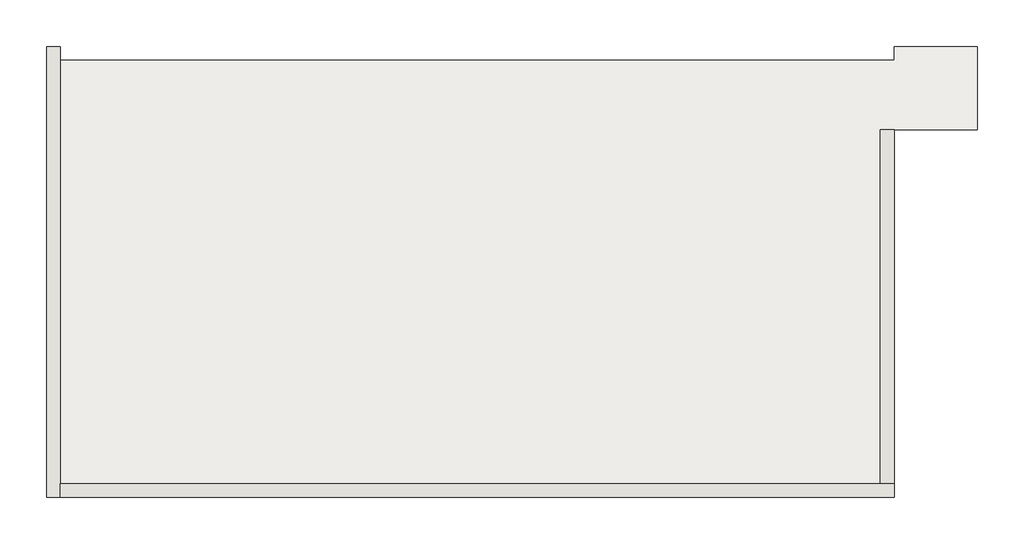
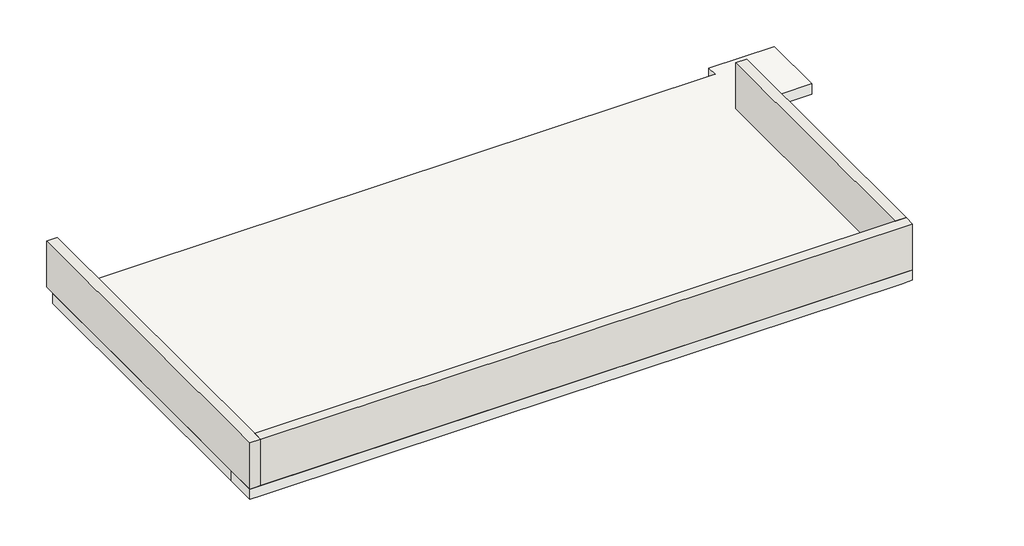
# One storey: 3 walls, 1 slab.
"""IFC4 building model written with IfcOpenShell, lengths in millimetres."""

from ifc_helpers import new_model, si_unit, frame, origin, place, context, project, spatial, polyline, outline, extrude, faceted_brep, element, save

model = new_model("IFC4")

# Units and contexts
model_context = context("Model", 3, world=origin())
ifc_project = project(units=[si_unit("LENGTHUNIT", "METRE", prefix="MILLI")], contexts=[model_context])

# Site, building, storey
site = spatial("IfcSite", under=ifc_project)
building = spatial("IfcBuilding", under=site)
storey = spatial("IfcBuildingStorey", under=building, Name="2 - RdC", Elevation=3000.0)

# Slab
placement = place(None, origin())
element("IfcSlab", 1, ObjectType="Dalle en béton - 200 mm", at=placement, inside=storey, context=model_context, shape_type="Brep", body=[
    faceted_brep([(-5173.7146801, -771.6841102, 2800.0), (-5173.7146801, -171.6841102, 2800.0), (-5173.7146801, 5528.3158898, 2800.0), (-4973.7146801, 5528.3158898, 2800.0), (836.2853199, 5528.3158898, 2800.0), (1036.2853199, 5528.3158898, 2800.0), (7046.2853199, 5528.3158898, 2800.0), (7046.2853199, 5728.3158898, 2800.0), (8246.2853199, 5728.3158898, 2800.0), (8246.2853199, 4528.3158898, 2800.0), (7046.2853199, 4528.3158898, 2800.0), (7046.2853199, -171.6841102, 2800.0), (7046.2853199, -771.6841102, 2800.0), (6846.2853199, -771.6841102, 2800.0), (1036.2853199, -771.6841102, 2800.0), (836.2853199, -771.6841102, 2800.0), (-4973.7146801, -771.6841102, 2800.0), (-5173.7146801, -771.6841102, 3000.0), (7046.2853199, -771.6841102, 3000.0), (7046.2853199, 4528.3158898, 3000.0), (8246.2853199, 4528.3158898, 3000.0), (8246.2853199, 5728.3158898, 3000.0), (7046.2853199, 5728.3158898, 3000.0), (7046.2853199, 5528.3158898, 3000.0), (-5173.7146801, 5528.3158898, 3000.0), (-5173.7146801, -171.6841102, 3000.0)], [[[0, 1, 2, 3, 4, 5, 6, 7, 8, 9, 10, 11, 12, 13, 14, 15, 16]], [[17, 18, 19, 20, 21, 22, 23, 24, 25]], [[1, 0, 17, 25]], [[2, 1, 25, 24]], [[6, 5, 4, 3, 2, 24, 23]], [[12, 11, 10, 19, 18]], [[0, 16, 15, 14, 13, 12, 18, 17]], [[8, 7, 22, 21]], [[9, 8, 21, 20]], [[10, 9, 20, 19]], [[7, 6, 23, 22]]]),
])

# Walls
element("IfcWall", 2, ObjectType="Générique - Ext. 200 mm", at=placement, inside=storey, context=model_context, shape_type="Brep", body=[
    faceted_brep([(-5173.7146801, 5728.3158898, 3000.0), (-5173.7146801, -771.6841102, 3000.0), (-5173.7146801, -771.6841102, 3900.0), (-5173.7146801, 5728.3158898, 3900.0), (-4973.7146801, 5728.3158898, 3000.0), (-4973.7146801, 5728.3158898, 3900.0), (-4973.7146801, -571.6841102, 3900.0), (-4973.7146801, -771.6841102, 3900.0), (-4973.7146801, -771.6841102, 3000.0), (-4973.7146801, -571.6841102, 3000.0)], [[[0, 1, 2, 3]], [[4, 5, 6, 7, 8, 9]], [[1, 0, 4, 9, 8]], [[3, 2, 7, 6, 5]], [[0, 3, 5, 4]], [[2, 1, 8, 7]]]),
])
element("IfcWall", 3, ObjectType="Générique - Ext. 200 mm", at=placement, inside=storey, context=model_context, shape_type="Brep", body=[
    faceted_brep([(-4973.7146801, -771.6841102, 3000.0), (7046.2853199, -771.6841102, 3000.0), (7046.2853199, -771.6841102, 3900.0), (-4973.7146801, -771.6841102, 3900.0), (-4973.7146801, -571.6841102, 3000.0), (-4973.7146801, -571.6841102, 3900.0), (6846.2853199, -571.6841102, 3900.0), (7046.2853199, -571.6841102, 3900.0), (7046.2853199, -571.6841102, 3000.0), (6846.2853199, -571.6841102, 3000.0)], [[[0, 1, 2, 3]], [[4, 5, 6, 7, 8, 9]], [[1, 0, 4, 9, 8]], [[3, 2, 7, 6, 5]], [[0, 3, 5, 4]], [[2, 1, 8, 7]]]),
])
element("IfcWall", 4, ObjectType="Générique - Ext. 200 mm", at=placement, inside=storey, context=model_context, shape_type="SweptSolid", body=[
    extrude(outline(polyline([(7046.2853199, 4528.3158898), (7046.2853199, -571.6841102), (6846.2853199, -571.6841102), (6846.2853199, 4528.3158898), (7046.2853199, 4528.3158898)])), frame((0.0, 0.0, 3000.0), z_axis=(0.0, 0.0, 1.0), x_axis=(1.0, 0.0, 0.0)), (0.0, 0.0, 1.0), 900.0),
])

save(model, "model.ifc")
